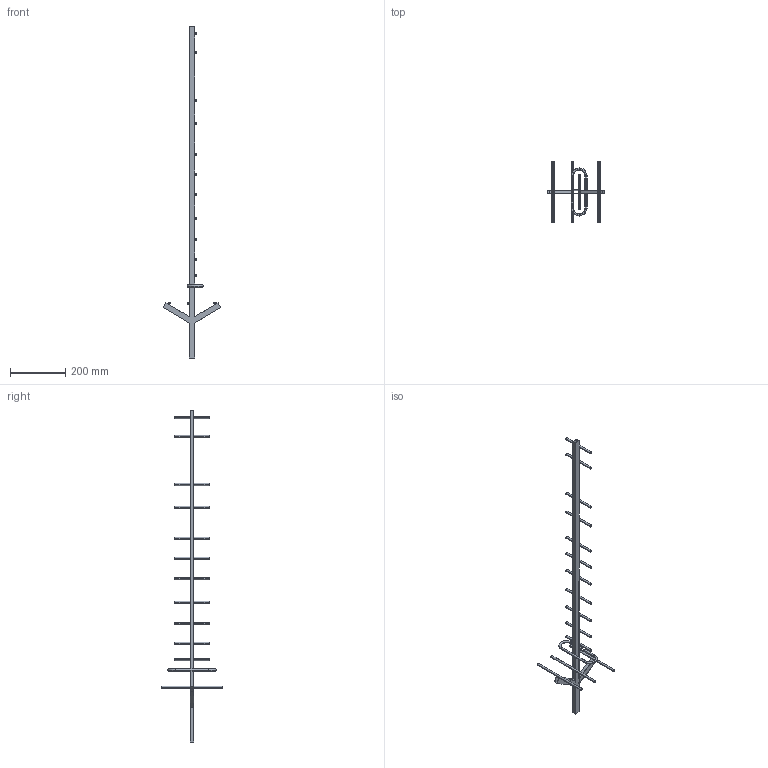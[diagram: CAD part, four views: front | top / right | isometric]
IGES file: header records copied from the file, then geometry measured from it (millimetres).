
Global section: file name: No Iges File Name specified; native system: Autodesk Inventor 2011; preprocessor: AutoDesk Inventor Iges Exporter R2011; author: Evgeny; date: 20140615.093303; units: millimetre
Bounding box: 208.73 x 223 x 1200 mm (x, y, z)
Volume: 140186.5 mm3; surface area: 281104.2 mm2
Topology: 12 solids, 12 shells, 165 faces, 409 edges, 250 vertices
Faces by surface type: plane 89, revolution 38, cylinder 34, torus 4
